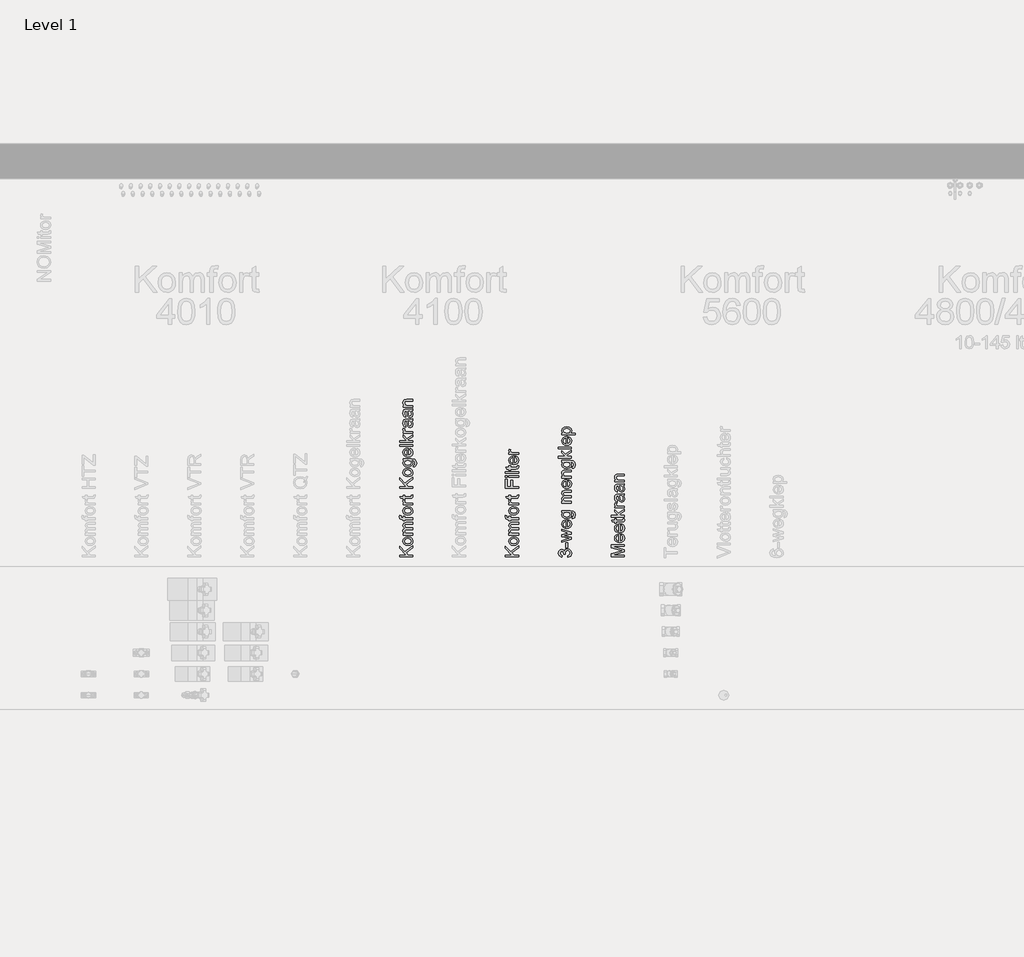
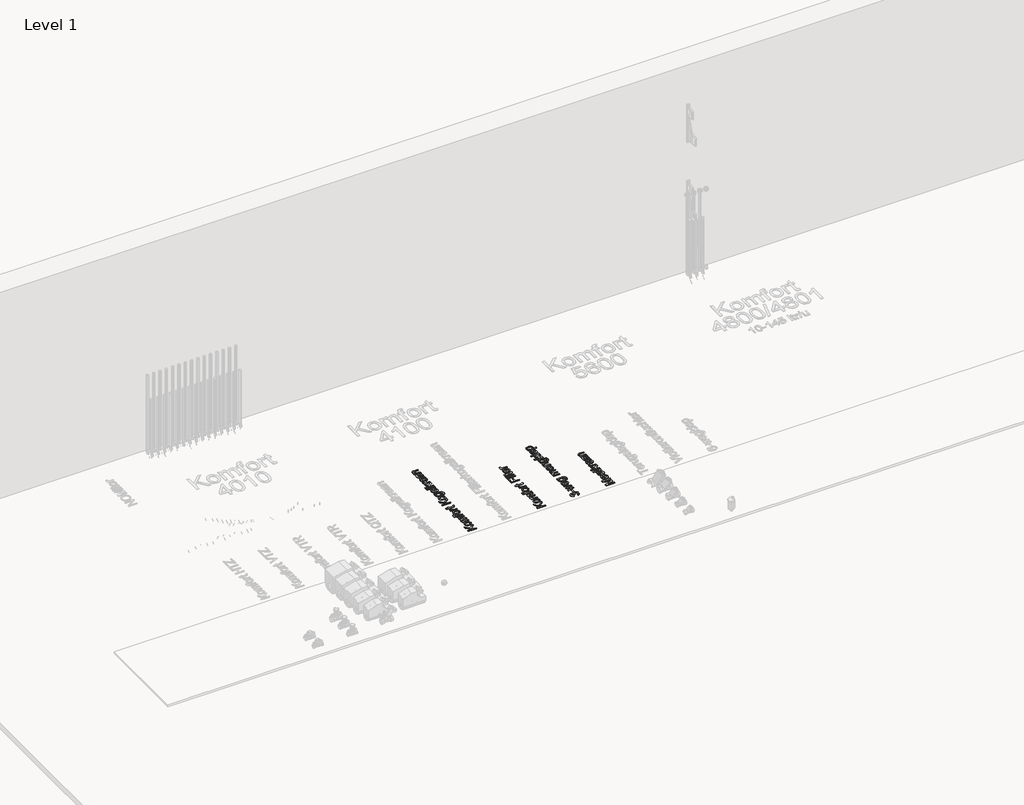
# One storey, part 19 of 34: 4 proxies.
"""IFC4 building model written with IfcOpenShell, lengths in millimetres."""

from ifc_helpers import new_model, si_unit, origin, origin_with_axes, place, context, project, spatial, polyline, outline, extrude, element, save

model = new_model("IFC4")

# Units and contexts
model_context = context("Model", 3, world=origin())
ifc_project = project(units=[si_unit("LENGTHUNIT", "METRE", prefix="MILLI")], contexts=[model_context])

# Site, building, storey
site = spatial("IfcSite", under=ifc_project)
building = spatial("IfcBuilding", under=site)
storey = spatial("IfcBuildingStorey", under=building, Name="Level 1", Elevation=0.0)

# Proxies
placement = place(None, origin())
element("IfcBuildingElementProxy", 1, Name="DN", ObjectType="DN", at=placement, inside=storey, context=model_context, shape_type="SweptSolid", body=[
    extrude(outline(polyline([(-13611.4250614, 5447.818969), (-13685.2712152, 5447.818969), (-13685.2712152, 5457.0497382), (-13649.1233787, 5457.0497382), (-13685.2712152, 5494.9103151), (-13685.2712152, 5507.818969), (-13654.9106383, 5476.0341132), (-13611.4250614, 5508.9728151), (-13611.4250614, 5497.6867574), (-13648.6726575, 5469.489642), (-13636.8096768, 5457.0497382), (-13611.4250614, 5457.0497382), (-13611.4250614, 5447.818969)])), origin_with_axes(), (0.0, 0.0, 1.0), 5.0),
    extrude(outline(polyline([(-13638.540446, 5512.4343536), (-13651.6158667, 5514.4310483), (-13660.806071, 5520.4211324), (-13665.3087753, 5527.8219738), (-13666.8096768, 5536.6831517), (-13664.9820025, 5546.3804173), (-13659.4989796, 5554.1260603), (-13650.7933005, 5559.2034341), (-13639.2976575, 5560.895892), (-13622.8733787, 5557.9031036), (-13613.5795085, 5549.1861565), (-13610.2712152, 5536.6831517), (-13612.0921287, 5526.8686985), (-13617.5548691, 5519.1320699), (-13626.4430902, 5514.1087827), (-13638.540446, 5512.4343536)]), holes=[polyline([(-13638.5584748, 5521.6651228), (-13624.2525854, 5525.9379593), (-13619.5019844, 5536.6831517), (-13624.2796287, 5547.3922863), (-13638.8469364, 5551.6651228), (-13652.8283066, 5547.365243), (-13657.5789075, 5536.6831517), (-13652.8463354, 5525.9379593), (-13638.5584748, 5521.6651228)])]), origin_with_axes(), (0.0, 0.0, 1.0), 5.0),
    extrude(outline(polyline([(-13611.4250614, 5571.2805074), (-13665.6558306, 5571.2805074), (-13665.6558306, 5580.5112767), (-13656.7315518, 5580.5112767), (-13664.0422489, 5586.8574305), (-13666.8096768, 5595.8898824), (-13663.9881623, 5605.1386805), (-13656.0825133, 5610.2228151), (-13664.1278859, 5617.4253392), (-13666.8096768, 5626.520892), (-13662.3475373, 5638.5912045), (-13648.6005421, 5642.818969), (-13611.4250614, 5642.818969), (-13611.4250614, 5633.5881997), (-13644.634196, 5633.5881997), (-13652.3415277, 5632.7318295), (-13656.1365998, 5629.630868), (-13657.5789075, 5624.3574305), (-13653.8829941, 5615.2799065), (-13642.0380421, 5611.6651228), (-13611.4250614, 5611.6651228), (-13611.4250614, 5602.4343536), (-13645.6618402, 5602.4343536), (-13654.6041479, 5600.2979353), (-13657.5789075, 5593.2937286), (-13655.5957344, 5586.4607959), (-13649.790446, 5581.9175267), (-13638.774821, 5580.5112767), (-13611.4250614, 5580.5112767), (-13611.4250614, 5571.2805074)])), origin_with_axes(), (0.0, 0.0, 1.0), 5.0),
    extrude(outline(polyline([(-13611.4250614, 5658.9728151), (-13656.4250614, 5658.9728151), (-13656.4250614, 5650.895892), (-13665.6558306, 5650.895892), (-13665.6558306, 5658.9728151), (-13671.118571, 5658.9728151), (-13678.8168883, 5659.9463728), (-13684.3156864, 5664.6699305), (-13686.4250614, 5673.9728151), (-13685.415446, 5682.3922863), (-13676.7615998, 5681.0401228), (-13677.1942921, 5675.7216132), (-13675.6618402, 5669.9073103), (-13669.946696, 5668.2035843), (-13665.6558306, 5668.2035843), (-13665.6558306, 5678.5881997), (-13656.4250614, 5678.5881997), (-13656.4250614, 5668.2035843), (-13611.4250614, 5668.2035843), (-13611.4250614, 5658.9728151)])), origin_with_axes(), (0.0, 0.0, 1.0), 5.0),
    extrude(outline(polyline([(-13638.540446, 5684.3574305), (-13651.6158667, 5686.3541252), (-13660.806071, 5692.3442093), (-13665.3087753, 5699.7450507), (-13666.8096768, 5708.6062286), (-13664.9820025, 5718.3034942), (-13659.4989796, 5726.0491372), (-13650.7933005, 5731.126511), (-13639.2976575, 5732.818969), (-13622.8733787, 5729.8261805), (-13613.5795085, 5721.1092334), (-13610.2712152, 5708.6062286), (-13612.0921287, 5698.7917755), (-13617.5548691, 5691.0551468), (-13626.4430902, 5686.0318596), (-13638.540446, 5684.3574305)]), holes=[polyline([(-13638.5584748, 5693.5881997), (-13624.2525854, 5697.8610363), (-13619.5019844, 5708.6062286), (-13624.2796287, 5719.3153632), (-13638.8469364, 5723.5881997), (-13652.8283066, 5719.2883199), (-13657.5789075, 5708.6062286), (-13652.8463354, 5697.8610363), (-13638.5584748, 5693.5881997)])]), origin_with_axes(), (0.0, 0.0, 1.0), 5.0),
    extrude(outline(polyline([(-13611.4250614, 5743.2035843), (-13665.6558306, 5743.2035843), (-13665.6558306, 5751.2805074), (-13657.6329941, 5751.2805074), (-13665.024821, 5757.0136805), (-13666.8096768, 5762.7829113), (-13663.9611191, 5772.0497382), (-13655.6858787, 5768.9668055), (-13657.5789075, 5762.4764209), (-13655.7579941, 5757.2570699), (-13650.7099171, 5753.9307478), (-13639.9286671, 5752.4343536), (-13611.4250614, 5752.4343536), (-13611.4250614, 5743.2035843)])), origin_with_axes(), (0.0, 0.0, 1.0), 5.0),
    extrude(outline(polyline([(-13619.1233787, 5797.4343536), (-13611.1546287, 5798.5881997), (-13610.2712152, 5791.6831517), (-13611.8036671, 5783.9487767), (-13615.8240998, 5780.0906036), (-13626.2988594, 5778.9728151), (-13656.4250614, 5778.9728151), (-13656.4250614, 5772.0497382), (-13665.6558306, 5772.0497382), (-13665.6558306, 5778.9728151), (-13678.8349171, 5778.9728151), (-13684.2615998, 5788.2035843), (-13665.6558306, 5788.2035843), (-13665.6558306, 5797.4343536), (-13656.4250614, 5797.4343536), (-13656.4250614, 5788.2035843), (-13626.5692921, 5788.2035843), (-13621.8096768, 5788.6903632), (-13620.1239796, 5790.2678872), (-13619.5019844, 5793.4139209), (-13619.1233787, 5797.4343536)])), origin_with_axes(), (0.0, 0.0, 1.0), 5.0),
    extrude(outline(polyline([(-13611.4250614, 5836.6651228), (-13685.2712152, 5836.6651228), (-13685.2712152, 5845.895892), (-13649.1233787, 5845.895892), (-13685.2712152, 5883.756469), (-13685.2712152, 5896.6651228), (-13654.9106383, 5864.880267), (-13611.4250614, 5897.818969), (-13611.4250614, 5886.5329113), (-13648.6726575, 5858.3357959), (-13636.8096768, 5845.895892), (-13611.4250614, 5845.895892), (-13611.4250614, 5836.6651228)])), origin_with_axes(), (0.0, 0.0, 1.0), 5.0),
    extrude(outline(polyline([(-13638.540446, 5901.2805074), (-13651.6158667, 5903.2772021), (-13660.806071, 5909.2672863), (-13665.3087753, 5916.6681276), (-13666.8096768, 5925.5293055), (-13664.9820025, 5935.2265711), (-13659.4989796, 5942.9722142), (-13650.7933005, 5948.049588), (-13639.2976575, 5949.7420459), (-13622.8733787, 5946.7492574), (-13613.5795085, 5938.0323103), (-13610.2712152, 5925.5293055), (-13612.0921287, 5915.7148524), (-13617.5548691, 5907.9782238), (-13626.4430902, 5902.9549365), (-13638.540446, 5901.2805074)]), holes=[polyline([(-13638.5584748, 5910.5112767), (-13624.2525854, 5914.7841132), (-13619.5019844, 5925.5293055), (-13624.2796287, 5936.2384401), (-13638.8469364, 5940.5112767), (-13652.8283066, 5936.2113968), (-13657.5789075, 5925.5293055), (-13652.8463354, 5914.7841132), (-13638.5584748, 5910.5112767)])]), origin_with_axes(), (0.0, 0.0, 1.0), 5.0),
    extrude(outline(polyline([(-13606.8096768, 5957.818969), (-13605.6558306, 5967.0497382), (-13600.7880421, 5970.0425267), (-13598.7327537, 5979.0028632), (-13601.0584748, 5988.4499786), (-13607.5849171, 5992.9571901), (-13618.3481383, 5993.5881997), (-13613.1558306, 5987.0888007), (-13611.4250614, 5979.1651228), (-13613.4397849, 5969.6481456), (-13619.4839556, 5962.5515411), (-13628.3451335, 5958.1367274), (-13638.8108787, 5956.6651228), (-13653.1167681, 5959.3063488), (-13663.2399652, 5966.9505795), (-13666.8096768, 5978.7144017), (-13664.790446, 5986.9490771), (-13658.7327537, 5993.5881997), (-13665.6558306, 5993.5881997), (-13665.6558306, 6002.818969), (-13618.8349171, 6002.818969), (-13600.9052296, 6000.2949305), (-13592.5668883, 5992.2991372), (-13589.5019844, 5978.8225747), (-13593.8198931, 5963.4710122), (-13599.2262933, 5959.1328211), (-13606.8096768, 5957.818969)]), holes=[polyline([(-13639.4418883, 5965.895892), (-13625.1540277, 5969.8351949), (-13620.6558306, 5979.724017), (-13625.1269844, 5989.5948103), (-13639.1714556, 5993.5881997), (-13652.9364796, 5989.4776228), (-13657.5789075, 5979.5797863), (-13653.008595, 5969.8892815), (-13639.4418883, 5965.895892)])]), origin_with_axes(), (0.0, 0.0, 1.0), 5.0),
    extrude(outline(polyline([(-13627.5789075, 6054.6338728), (-13626.4250614, 6063.6843536), (-13614.5079941, 6055.2198103), (-13610.2712152, 6039.4535843), (-13612.0988895, 6028.622755), (-13617.5819123, 6020.2889209), (-13626.364214, 6014.9749185), (-13638.0897248, 6013.2035843), (-13650.2096167, 6014.9929473), (-13659.2736191, 6020.3610363), (-13664.9256623, 6028.5821901), (-13666.8096768, 6038.9307478), (-13664.9301695, 6048.9570399), (-13659.2916479, 6056.9686084), (-13650.2456743, 6062.2217634), (-13638.1438114, 6063.9728151), (-13635.6558306, 6063.9187286), (-13635.6558306, 6022.4343536), (-13623.6666479, 6027.7438488), (-13619.5019844, 6039.6338728), (-13621.431071, 6048.6843536), (-13627.5789075, 6054.6338728)]), holes=[polyline([(-13644.8865998, 6022.4343536), (-13644.8865998, 6054.7420459), (-13653.2519844, 6051.0461324), (-13657.5789075, 6038.8946901), (-13654.1263835, 6027.5275026), (-13644.8865998, 6022.4343536)])]), origin_with_axes(), (0.0, 0.0, 1.0), 5.0),
    extrude(outline(polyline([(-13611.4250614, 6073.2035843), (-13685.2712152, 6073.2035843), (-13685.2712152, 6082.4343536), (-13611.4250614, 6082.4343536), (-13611.4250614, 6073.2035843)])), origin_with_axes(), (0.0, 0.0, 1.0), 5.0),
    extrude(outline(polyline([(-13611.4250614, 6096.2805074), (-13685.2712152, 6096.2805074), (-13685.2712152, 6105.5112767), (-13645.5897248, 6105.5112767), (-13665.6558306, 6126.208392), (-13665.6558306, 6138.9728151), (-13645.337321, 6118.0232959), (-13611.4250614, 6140.1266613), (-13611.4250614, 6129.3454113), (-13638.9190518, 6111.4067093), (-13633.2039075, 6105.5112767), (-13611.4250614, 6105.5112767), (-13611.4250614, 6096.2805074)])), origin_with_axes(), (0.0, 0.0, 1.0), 5.0),
    extrude(outline(polyline([(-13611.4250614, 6148.2035843), (-13665.6558306, 6148.2035843), (-13665.6558306, 6156.2805074), (-13657.6329941, 6156.2805074), (-13665.024821, 6162.0136805), (-13666.8096768, 6167.7829113), (-13663.9611191, 6177.0497382), (-13655.6858787, 6173.9668055), (-13657.5789075, 6167.4764209), (-13655.7579941, 6162.2570699), (-13650.7099171, 6158.9307478), (-13639.9286671, 6157.4343536), (-13611.4250614, 6157.4343536), (-13611.4250614, 6148.2035843)])), origin_with_axes(), (0.0, 0.0, 1.0), 5.0),
    extrude(outline(polyline([(-13618.3481383, 6217.4343536), (-13612.0921287, 6208.4830315), (-13610.2712152, 6198.5942093), (-13614.6522248, 6185.1897622), (-13625.8481383, 6180.5112767), (-13633.149821, 6182.2781036), (-13638.4503018, 6186.9205315), (-13641.4791479, 6193.3838728), (-13642.8673691, 6201.3706517), (-13646.040446, 6217.380267), (-13648.0957344, 6217.4343536), (-13654.9106383, 6214.8922863), (-13657.5789075, 6204.6879593), (-13655.8030662, 6195.349017), (-13649.5019844, 6190.895892), (-13650.6558306, 6181.6651228), (-13659.6702537, 6185.6585122), (-13664.9527056, 6193.6993776), (-13666.8096768, 6205.8778632), (-13665.1690518, 6217.0647622), (-13661.0494604, 6223.3838728), (-13654.7844364, 6226.2144017), (-13646.7075133, 6226.6651228), (-13635.2231383, 6226.6651228), (-13619.1864796, 6227.1338728), (-13611.4250614, 6228.9728151), (-13611.4250614, 6219.7420459), (-13618.3481383, 6217.4343536)]), holes=[polyline([(-13636.8096768, 6217.4343536), (-13633.9791479, 6202.5425267), (-13632.4827537, 6194.6008199), (-13630.0488594, 6191.0040651), (-13626.4971768, 6189.7420459), (-13621.5031864, 6192.4914449), (-13619.5019844, 6200.5593536), (-13621.7105181, 6209.8982959), (-13627.056071, 6215.9199305), (-13634.1954941, 6217.380267), (-13636.8096768, 6217.4343536)])]), origin_with_axes(), (0.0, 0.0, 1.0), 5.0),
    extrude(outline(polyline([(-13618.3481383, 6273.9728151), (-13612.0921287, 6265.021493), (-13610.2712152, 6255.1326709), (-13614.6522248, 6241.7282238), (-13625.8481383, 6237.0497382), (-13633.149821, 6238.8165651), (-13638.4503018, 6243.458993), (-13641.4791479, 6249.9223343), (-13642.8673691, 6257.9091132), (-13646.040446, 6273.9187286), (-13648.0957344, 6273.9728151), (-13654.9106383, 6271.4307478), (-13657.5789075, 6261.2264209), (-13655.8030662, 6251.8874786), (-13649.5019844, 6247.4343536), (-13650.6558306, 6238.2035843), (-13659.6702537, 6242.1969738), (-13664.9527056, 6250.2378392), (-13666.8096768, 6262.4163247), (-13665.1690518, 6273.6032238), (-13661.0494604, 6279.9223343), (-13654.7844364, 6282.7528632), (-13646.7075133, 6283.2035843), (-13635.2231383, 6283.2035843), (-13619.1864796, 6283.6723343), (-13611.4250614, 6285.5112767), (-13611.4250614, 6276.2805074), (-13618.3481383, 6273.9728151)]), holes=[polyline([(-13636.8096768, 6273.9728151), (-13633.9791479, 6259.0809882), (-13632.4827537, 6251.1392815), (-13630.0488594, 6247.5425267), (-13626.4971768, 6246.2805074), (-13621.5031864, 6249.0299065), (-13619.5019844, 6257.0978151), (-13621.7105181, 6266.4367574), (-13627.056071, 6272.458392), (-13634.1954941, 6273.9187286), (-13636.8096768, 6273.9728151)])]), origin_with_axes(), (0.0, 0.0, 1.0), 5.0),
    extrude(outline(polyline([(-13611.4250614, 6295.895892), (-13665.6558306, 6295.895892), (-13665.6558306, 6305.1266613), (-13658.0837152, 6305.1266613), (-13664.6281864, 6312.1849545), (-13666.8096768, 6321.8213728), (-13665.0518643, 6330.5383199), (-13660.4364796, 6336.4878392), (-13653.6486191, 6339.255267), (-13644.7243402, 6339.7420459), (-13611.4250614, 6339.7420459), (-13611.4250614, 6330.5112767), (-13643.4803498, 6330.5112767), (-13651.6474171, 6329.4475747), (-13655.9653258, 6325.6885603), (-13657.5789075, 6319.3514209), (-13653.9551094, 6309.3363968), (-13640.1990998, 6305.1266613), (-13611.4250614, 6305.1266613), (-13611.4250614, 6295.895892)])), origin_with_axes(), (0.0, 0.0, 1.0), 5.0),
])
element("IfcBuildingElementProxy", 2, Name="DN", ObjectType="DN", at=placement, inside=storey, context=model_context, shape_type="SweptSolid", body=[
    extrude(outline(polyline([(-13011.4250614, 5447.818969), (-13085.2712152, 5447.818969), (-13085.2712152, 5457.0497382), (-13049.1233787, 5457.0497382), (-13085.2712152, 5494.9103151), (-13085.2712152, 5507.818969), (-13054.9106383, 5476.0341132), (-13011.4250614, 5508.9728151), (-13011.4250614, 5497.6867574), (-13048.6726575, 5469.489642), (-13036.8096768, 5457.0497382), (-13011.4250614, 5457.0497382), (-13011.4250614, 5447.818969)])), origin_with_axes(), (0.0, 0.0, 1.0), 5.0),
    extrude(outline(polyline([(-13038.540446, 5512.4343536), (-13051.6158667, 5514.4310483), (-13060.806071, 5520.4211324), (-13065.3087753, 5527.8219738), (-13066.8096768, 5536.6831517), (-13064.9820025, 5546.3804173), (-13059.4989796, 5554.1260603), (-13050.7933005, 5559.2034341), (-13039.2976575, 5560.895892), (-13022.8733787, 5557.9031036), (-13013.5795085, 5549.1861565), (-13010.2712152, 5536.6831517), (-13012.0921287, 5526.8686985), (-13017.5548691, 5519.1320699), (-13026.4430902, 5514.1087827), (-13038.540446, 5512.4343536)]), holes=[polyline([(-13038.5584748, 5521.6651228), (-13024.2525854, 5525.9379593), (-13019.5019844, 5536.6831517), (-13024.2796287, 5547.3922863), (-13038.8469364, 5551.6651228), (-13052.8283066, 5547.365243), (-13057.5789075, 5536.6831517), (-13052.8463354, 5525.9379593), (-13038.5584748, 5521.6651228)])]), origin_with_axes(), (0.0, 0.0, 1.0), 5.0),
    extrude(outline(polyline([(-13011.4250614, 5571.2805074), (-13065.6558306, 5571.2805074), (-13065.6558306, 5580.5112767), (-13056.7315518, 5580.5112767), (-13064.0422489, 5586.8574305), (-13066.8096768, 5595.8898824), (-13063.9881623, 5605.1386805), (-13056.0825133, 5610.2228151), (-13064.1278859, 5617.4253392), (-13066.8096768, 5626.520892), (-13062.3475373, 5638.5912045), (-13048.6005421, 5642.818969), (-13011.4250614, 5642.818969), (-13011.4250614, 5633.5881997), (-13044.634196, 5633.5881997), (-13052.3415277, 5632.7318295), (-13056.1365998, 5629.630868), (-13057.5789075, 5624.3574305), (-13053.8829941, 5615.2799065), (-13042.0380421, 5611.6651228), (-13011.4250614, 5611.6651228), (-13011.4250614, 5602.4343536), (-13045.6618402, 5602.4343536), (-13054.6041479, 5600.2979353), (-13057.5789075, 5593.2937286), (-13055.5957344, 5586.4607959), (-13049.790446, 5581.9175267), (-13038.774821, 5580.5112767), (-13011.4250614, 5580.5112767), (-13011.4250614, 5571.2805074)])), origin_with_axes(), (0.0, 0.0, 1.0), 5.0),
    extrude(outline(polyline([(-13011.4250614, 5658.9728151), (-13056.4250614, 5658.9728151), (-13056.4250614, 5650.895892), (-13065.6558306, 5650.895892), (-13065.6558306, 5658.9728151), (-13071.118571, 5658.9728151), (-13078.8168883, 5659.9463728), (-13084.3156864, 5664.6699305), (-13086.4250614, 5673.9728151), (-13085.415446, 5682.3922863), (-13076.7615998, 5681.0401228), (-13077.1942921, 5675.7216132), (-13075.6618402, 5669.9073103), (-13069.946696, 5668.2035843), (-13065.6558306, 5668.2035843), (-13065.6558306, 5678.5881997), (-13056.4250614, 5678.5881997), (-13056.4250614, 5668.2035843), (-13011.4250614, 5668.2035843), (-13011.4250614, 5658.9728151)])), origin_with_axes(), (0.0, 0.0, 1.0), 5.0),
    extrude(outline(polyline([(-13038.540446, 5684.3574305), (-13051.6158667, 5686.3541252), (-13060.806071, 5692.3442093), (-13065.3087753, 5699.7450507), (-13066.8096768, 5708.6062286), (-13064.9820025, 5718.3034942), (-13059.4989796, 5726.0491372), (-13050.7933005, 5731.126511), (-13039.2976575, 5732.818969), (-13022.8733787, 5729.8261805), (-13013.5795085, 5721.1092334), (-13010.2712152, 5708.6062286), (-13012.0921287, 5698.7917755), (-13017.5548691, 5691.0551468), (-13026.4430902, 5686.0318596), (-13038.540446, 5684.3574305)]), holes=[polyline([(-13038.5584748, 5693.5881997), (-13024.2525854, 5697.8610363), (-13019.5019844, 5708.6062286), (-13024.2796287, 5719.3153632), (-13038.8469364, 5723.5881997), (-13052.8283066, 5719.2883199), (-13057.5789075, 5708.6062286), (-13052.8463354, 5697.8610363), (-13038.5584748, 5693.5881997)])]), origin_with_axes(), (0.0, 0.0, 1.0), 5.0),
    extrude(outline(polyline([(-13011.4250614, 5743.2035843), (-13065.6558306, 5743.2035843), (-13065.6558306, 5751.2805074), (-13057.6329941, 5751.2805074), (-13065.024821, 5757.0136805), (-13066.8096768, 5762.7829113), (-13063.9611191, 5772.0497382), (-13055.6858787, 5768.9668055), (-13057.5789075, 5762.4764209), (-13055.7579941, 5757.2570699), (-13050.7099171, 5753.9307478), (-13039.9286671, 5752.4343536), (-13011.4250614, 5752.4343536), (-13011.4250614, 5743.2035843)])), origin_with_axes(), (0.0, 0.0, 1.0), 5.0),
    extrude(outline(polyline([(-13019.1233787, 5797.4343536), (-13011.1546287, 5798.5881997), (-13010.2712152, 5791.6831517), (-13011.8036671, 5783.9487767), (-13015.8240998, 5780.0906036), (-13026.2988594, 5778.9728151), (-13056.4250614, 5778.9728151), (-13056.4250614, 5772.0497382), (-13065.6558306, 5772.0497382), (-13065.6558306, 5778.9728151), (-13078.8349171, 5778.9728151), (-13084.2615998, 5788.2035843), (-13065.6558306, 5788.2035843), (-13065.6558306, 5797.4343536), (-13056.4250614, 5797.4343536), (-13056.4250614, 5788.2035843), (-13026.5692921, 5788.2035843), (-13021.8096768, 5788.6903632), (-13020.1239796, 5790.2678872), (-13019.5019844, 5793.4139209), (-13019.1233787, 5797.4343536)])), origin_with_axes(), (0.0, 0.0, 1.0), 5.0),
    extrude(outline(polyline([(-13011.4250614, 5836.6651228), (-13085.2712152, 5836.6651228), (-13085.2712152, 5886.2805074), (-13076.040446, 5886.2805074), (-13076.040446, 5845.895892), (-13054.1173691, 5845.895892), (-13054.1173691, 5880.5112767), (-13044.8865998, 5880.5112767), (-13044.8865998, 5845.895892), (-13011.4250614, 5845.895892), (-13011.4250614, 5836.6651228)])), origin_with_axes(), (0.0, 0.0, 1.0), 5.0),
    extrude(outline(polyline([(-13011.4250614, 5897.818969), (-13065.6558306, 5897.818969), (-13065.6558306, 5907.0497382), (-13011.4250614, 5907.0497382), (-13011.4250614, 5897.818969)])), origin_with_axes(), (0.0, 0.0, 1.0), 5.0),
    extrude(outline(polyline([(-13076.040446, 5897.818969), (-13085.2712152, 5897.818969), (-13085.2712152, 5907.0497382), (-13076.040446, 5907.0497382), (-13076.040446, 5897.818969)])), origin_with_axes(), (0.0, 0.0, 1.0), 5.0),
    extrude(outline(polyline([(-13011.4250614, 5920.895892), (-13085.2712152, 5920.895892), (-13085.2712152, 5930.1266613), (-13011.4250614, 5930.1266613), (-13011.4250614, 5920.895892)])), origin_with_axes(), (0.0, 0.0, 1.0), 5.0),
    extrude(outline(polyline([(-13019.1233787, 5963.5881997), (-13011.1546287, 5964.7420459), (-13010.2712152, 5957.8369978), (-13011.8036671, 5950.1026228), (-13015.8240998, 5946.2444497), (-13026.2988594, 5945.1266613), (-13056.4250614, 5945.1266613), (-13056.4250614, 5938.2035843), (-13065.6558306, 5938.2035843), (-13065.6558306, 5945.1266613), (-13078.8349171, 5945.1266613), (-13084.2615998, 5954.3574305), (-13065.6558306, 5954.3574305), (-13065.6558306, 5963.5881997), (-13056.4250614, 5963.5881997), (-13056.4250614, 5954.3574305), (-13026.5692921, 5954.3574305), (-13021.8096768, 5954.8442093), (-13020.1239796, 5956.4217334), (-13019.5019844, 5959.567767), (-13019.1233787, 5963.5881997)])), origin_with_axes(), (0.0, 0.0, 1.0), 5.0),
    extrude(outline(polyline([(-13027.5789075, 6010.787719), (-13026.4250614, 6019.8381997), (-13014.5079941, 6011.3736565), (-13010.2712152, 5995.6074305), (-13012.0988895, 5984.7766012), (-13017.5819123, 5976.442767), (-13026.364214, 5971.1287646), (-13038.0897248, 5969.3574305), (-13050.2096167, 5971.1467935), (-13059.2736191, 5976.5148824), (-13064.9256623, 5984.7360363), (-13066.8096768, 5995.084594), (-13064.9301695, 6005.110886), (-13059.2916479, 6013.1224545), (-13050.2456743, 6018.3756096), (-13038.1438114, 6020.1266613), (-13035.6558306, 6020.0725747), (-13035.6558306, 5978.5881997), (-13023.6666479, 5983.8976949), (-13019.5019844, 5995.787719), (-13021.431071, 6004.8381997), (-13027.5789075, 6010.787719)]), holes=[polyline([(-13044.8865998, 5978.5881997), (-13044.8865998, 6010.895892), (-13053.2519844, 6007.1999786), (-13057.5789075, 5995.0485363), (-13054.1263835, 5983.6813488), (-13044.8865998, 5978.5881997)])]), origin_with_axes(), (0.0, 0.0, 1.0), 5.0),
    extrude(outline(polyline([(-13011.4250614, 6029.3574305), (-13065.6558306, 6029.3574305), (-13065.6558306, 6037.4343536), (-13057.6329941, 6037.4343536), (-13065.024821, 6043.1675267), (-13066.8096768, 6048.9367574), (-13063.9611191, 6058.2035843), (-13055.6858787, 6055.1206517), (-13057.5789075, 6048.630267), (-13055.7579941, 6043.4109161), (-13050.7099171, 6040.084594), (-13039.9286671, 6038.5881997), (-13011.4250614, 6038.5881997), (-13011.4250614, 6029.3574305)])), origin_with_axes(), (0.0, 0.0, 1.0), 5.0),
])
element("IfcBuildingElementProxy", 3, Name="DN", ObjectType="DN", at=placement, inside=storey, context=model_context, shape_type="SweptSolid", body=[
    extrude(outline(polyline([(-12731.040446, 5444.3574305), (-12732.1942921, 5453.5881997), (-12722.4767441, 5458.6813488), (-12719.5019844, 5468.209594), (-12723.5945325, 5479.4235363), (-12733.7267441, 5483.5881997), (-12743.2730181, 5479.459594), (-12747.0500614, 5468.9668055), (-12746.040446, 5462.4944497), (-12755.2712152, 5463.522094), (-12757.8132825, 5475.475219), (-12765.962321, 5480.1266613), (-12773.1828739, 5476.755267), (-12776.040446, 5468.0653632), (-12773.1558306, 5459.2672863), (-12764.5019844, 5454.7420459), (-12765.6558306, 5445.5112767), (-12780.1329941, 5453.0653632), (-12785.2712152, 5467.740844), (-12782.7381623, 5478.8736565), (-12775.8150854, 5486.662118), (-12766.5031864, 5489.3574305), (-12757.993571, 5486.7973343), (-12751.8817921, 5479.225219), (-12745.571696, 5489.2853151), (-12733.5644844, 5492.818969), (-12724.5680902, 5491.052142), (-12717.0500614, 5485.7516613), (-12711.9659268, 5477.7513608), (-12710.2712152, 5467.8850747), (-12711.7180301, 5458.9607959), (-12716.0584748, 5451.6951709), (-12722.6975974, 5446.6425868), (-12731.040446, 5444.3574305)])), origin_with_axes(), (0.0, 0.0, 1.0), 5.0),
    extrude(outline(polyline([(-12733.3481383, 5498.5881997), (-12742.5789075, 5498.5881997), (-12742.5789075, 5527.4343536), (-12733.3481383, 5527.4343536), (-12733.3481383, 5498.5881997)])), origin_with_axes(), (0.0, 0.0, 1.0), 5.0),
    extrude(outline(polyline([(-12711.4250614, 5546.8153632), (-12765.6558306, 5530.318969), (-12765.6558306, 5539.9103151), (-12734.0152056, 5549.2672863), (-12722.7111191, 5552.0617574), (-12733.6005421, 5554.3514209), (-12765.6558306, 5561.7973343), (-12765.6558306, 5572.7949305), (-12733.6906864, 5580.2047863), (-12723.8289075, 5582.2420459), (-12734.2315518, 5585.162719), (-12765.6558306, 5594.537719), (-12765.6558306, 5604.1651228), (-12711.4250614, 5587.5425267), (-12711.4250614, 5576.3826709), (-12743.227946, 5569.2973343), (-12753.1438114, 5567.2420459), (-12711.4250614, 5558.1014209), (-12711.4250614, 5546.8153632)])), origin_with_axes(), (0.0, 0.0, 1.0), 5.0),
    extrude(outline(polyline([(-12727.5789075, 5648.4800267), (-12726.4250614, 5657.5305074), (-12714.5079941, 5649.0659642), (-12710.2712152, 5633.2997382), (-12712.0988895, 5622.4689089), (-12717.5819123, 5614.1350747), (-12726.364214, 5608.8210723), (-12738.0897248, 5607.0497382), (-12750.2096167, 5608.8391012), (-12759.2736191, 5614.2071901), (-12764.9256623, 5622.428344), (-12766.8096768, 5632.7769017), (-12764.9301695, 5642.8031937), (-12759.2916479, 5650.8147622), (-12750.2456743, 5656.0679173), (-12738.1438114, 5657.818969), (-12735.6558306, 5657.7648824), (-12735.6558306, 5616.2805074), (-12723.6666479, 5621.5900026), (-12719.5019844, 5633.4800267), (-12721.431071, 5642.5305074), (-12727.5789075, 5648.4800267)]), holes=[polyline([(-12744.8865998, 5616.2805074), (-12744.8865998, 5648.5881997), (-12753.2519844, 5644.8922863), (-12757.5789075, 5632.740844), (-12754.1263835, 5621.3736565), (-12744.8865998, 5616.2805074)])]), origin_with_axes(), (0.0, 0.0, 1.0), 5.0),
    extrude(outline(polyline([(-12706.8096768, 5664.7420459), (-12705.6558306, 5673.9728151), (-12700.7880421, 5676.9656036), (-12698.7327537, 5685.9259401), (-12701.0584748, 5695.3730555), (-12707.5849171, 5699.880267), (-12718.3481383, 5700.5112767), (-12713.1558306, 5694.0118776), (-12711.4250614, 5686.0881997), (-12713.4397849, 5676.5712226), (-12719.4839556, 5669.474618), (-12728.3451335, 5665.0598043), (-12738.8108787, 5663.5881997), (-12753.1167681, 5666.2294257), (-12763.2399652, 5673.8736565), (-12766.8096768, 5685.6374786), (-12764.790446, 5693.8721541), (-12758.7327537, 5700.5112767), (-12765.6558306, 5700.5112767), (-12765.6558306, 5709.7420459), (-12718.8349171, 5709.7420459), (-12700.9052296, 5707.2180074), (-12692.5668883, 5699.2222142), (-12689.5019844, 5685.7456517), (-12693.8198931, 5670.3940892), (-12699.2262933, 5666.055898), (-12706.8096768, 5664.7420459)]), holes=[polyline([(-12739.4418883, 5672.818969), (-12725.1540277, 5676.7582718), (-12720.6558306, 5686.647094), (-12725.1269844, 5696.5178872), (-12739.1714556, 5700.5112767), (-12752.9364796, 5696.4006997), (-12757.5789075, 5686.5028632), (-12753.008595, 5676.8123584), (-12739.4418883, 5672.818969)])]), origin_with_axes(), (0.0, 0.0, 1.0), 5.0),
    extrude(outline(polyline([(-12711.4250614, 5752.4343536), (-12765.6558306, 5752.4343536), (-12765.6558306, 5761.6651228), (-12756.7315518, 5761.6651228), (-12764.0422489, 5768.0112767), (-12766.8096768, 5777.0437286), (-12763.9881623, 5786.2925267), (-12756.0825133, 5791.3766613), (-12764.1278859, 5798.5791853), (-12766.8096768, 5807.6747382), (-12762.3475373, 5819.7450507), (-12748.6005421, 5823.9728151), (-12711.4250614, 5823.9728151), (-12711.4250614, 5814.7420459), (-12744.634196, 5814.7420459), (-12752.3415277, 5813.8856757), (-12756.1365998, 5810.7847142), (-12757.5789075, 5805.5112767), (-12753.8829941, 5796.4337526), (-12742.0380421, 5792.818969), (-12711.4250614, 5792.818969), (-12711.4250614, 5783.5881997), (-12745.6618402, 5783.5881997), (-12754.6041479, 5781.4517815), (-12757.5789075, 5774.4475747), (-12755.5957344, 5767.614642), (-12749.790446, 5763.0713728), (-12738.774821, 5761.6651228), (-12711.4250614, 5761.6651228), (-12711.4250614, 5752.4343536)])), origin_with_axes(), (0.0, 0.0, 1.0), 5.0),
    extrude(outline(polyline([(-12727.5789075, 5875.787719), (-12726.4250614, 5884.8381997), (-12714.5079941, 5876.3736565), (-12710.2712152, 5860.6074305), (-12712.0988895, 5849.7766012), (-12717.5819123, 5841.442767), (-12726.364214, 5836.1287646), (-12738.0897248, 5834.3574305), (-12750.2096167, 5836.1467935), (-12759.2736191, 5841.5148824), (-12764.9256623, 5849.7360363), (-12766.8096768, 5860.084594), (-12764.9301695, 5870.110886), (-12759.2916479, 5878.1224545), (-12750.2456743, 5883.3756096), (-12738.1438114, 5885.1266613), (-12735.6558306, 5885.0725747), (-12735.6558306, 5843.5881997), (-12723.6666479, 5848.8976949), (-12719.5019844, 5860.787719), (-12721.431071, 5869.8381997), (-12727.5789075, 5875.787719)]), holes=[polyline([(-12744.8865998, 5843.5881997), (-12744.8865998, 5875.895892), (-12753.2519844, 5872.1999786), (-12757.5789075, 5860.0485363), (-12754.1263835, 5848.6813488), (-12744.8865998, 5843.5881997)])]), origin_with_axes(), (0.0, 0.0, 1.0), 5.0),
    extrude(outline(polyline([(-12711.4250614, 5894.3574305), (-12765.6558306, 5894.3574305), (-12765.6558306, 5903.5881997), (-12758.0837152, 5903.5881997), (-12764.6281864, 5910.646493), (-12766.8096768, 5920.2829113), (-12765.0518643, 5928.9998584), (-12760.4364796, 5934.9493776), (-12753.6486191, 5937.7168055), (-12744.7243402, 5938.2035843), (-12711.4250614, 5938.2035843), (-12711.4250614, 5928.9728151), (-12743.4803498, 5928.9728151), (-12751.6474171, 5927.9091132), (-12755.9653258, 5924.1500988), (-12757.5789075, 5917.8129593), (-12753.9551094, 5907.7979353), (-12740.1990998, 5903.5881997), (-12711.4250614, 5903.5881997), (-12711.4250614, 5894.3574305)])), origin_with_axes(), (0.0, 0.0, 1.0), 5.0),
    extrude(outline(polyline([(-12706.8096768, 5948.5881997), (-12705.6558306, 5957.818969), (-12700.7880421, 5960.8117574), (-12698.7327537, 5969.772094), (-12701.0584748, 5979.2192093), (-12707.5849171, 5983.7264209), (-12718.3481383, 5984.3574305), (-12713.1558306, 5977.8580315), (-12711.4250614, 5969.9343536), (-12713.4397849, 5960.4173764), (-12719.4839556, 5953.3207718), (-12728.3451335, 5948.9059581), (-12738.8108787, 5947.4343536), (-12753.1167681, 5950.0755795), (-12763.2399652, 5957.7198103), (-12766.8096768, 5969.4836324), (-12764.790446, 5977.7183079), (-12758.7327537, 5984.3574305), (-12765.6558306, 5984.3574305), (-12765.6558306, 5993.5881997), (-12718.8349171, 5993.5881997), (-12700.9052296, 5991.0641613), (-12692.5668883, 5983.068368), (-12689.5019844, 5969.5918055), (-12693.8198931, 5954.240243), (-12699.2262933, 5949.9020519), (-12706.8096768, 5948.5881997)]), holes=[polyline([(-12739.4418883, 5956.6651228), (-12725.1540277, 5960.6044257), (-12720.6558306, 5970.4932478), (-12725.1269844, 5980.3640411), (-12739.1714556, 5984.3574305), (-12752.9364796, 5980.2468536), (-12757.5789075, 5970.349017), (-12753.008595, 5960.6585122), (-12739.4418883, 5956.6651228)])]), origin_with_axes(), (0.0, 0.0, 1.0), 5.0),
    extrude(outline(polyline([(-12711.4250614, 6007.4343536), (-12785.2712152, 6007.4343536), (-12785.2712152, 6016.6651228), (-12745.5897248, 6016.6651228), (-12765.6558306, 6037.3622382), (-12765.6558306, 6050.1266613), (-12745.337321, 6029.177142), (-12711.4250614, 6051.2805074), (-12711.4250614, 6040.4992574), (-12738.9190518, 6022.5605555), (-12733.2039075, 6016.6651228), (-12711.4250614, 6016.6651228), (-12711.4250614, 6007.4343536)])), origin_with_axes(), (0.0, 0.0, 1.0), 5.0),
    extrude(outline(polyline([(-12711.4250614, 6059.3574305), (-12785.2712152, 6059.3574305), (-12785.2712152, 6068.5881997), (-12711.4250614, 6068.5881997), (-12711.4250614, 6059.3574305)])), origin_with_axes(), (0.0, 0.0, 1.0), 5.0),
    extrude(outline(polyline([(-12727.5789075, 6120.4031036), (-12726.4250614, 6129.4535843), (-12714.5079941, 6120.9890411), (-12710.2712152, 6105.2228151), (-12712.0988895, 6094.3919858), (-12717.5819123, 6086.0581517), (-12726.364214, 6080.7441493), (-12738.0897248, 6078.9728151), (-12750.2096167, 6080.7621781), (-12759.2736191, 6086.130267), (-12764.9256623, 6094.3514209), (-12766.8096768, 6104.6999786), (-12764.9301695, 6114.7262706), (-12759.2916479, 6122.7378392), (-12750.2456743, 6127.9909942), (-12738.1438114, 6129.7420459), (-12735.6558306, 6129.6879593), (-12735.6558306, 6088.2035843), (-12723.6666479, 6093.5130795), (-12719.5019844, 6105.4031036), (-12721.431071, 6114.4535843), (-12727.5789075, 6120.4031036)]), holes=[polyline([(-12744.8865998, 6088.2035843), (-12744.8865998, 6120.5112767), (-12753.2519844, 6116.8153632), (-12757.5789075, 6104.6639209), (-12754.1263835, 6093.2967334), (-12744.8865998, 6088.2035843)])]), origin_with_axes(), (0.0, 0.0, 1.0), 5.0),
    extrude(outline(polyline([(-12690.6558306, 6138.9728151), (-12765.6558306, 6138.9728151), (-12765.6558306, 6148.2035843), (-12756.6053498, 6148.2035843), (-12764.258595, 6154.5857959), (-12766.8096768, 6163.2035843), (-12763.2399652, 6174.9043055), (-12753.1798691, 6182.5485363), (-12738.9551094, 6185.1266613), (-12724.0001816, 6182.2150026), (-12713.8138835, 6173.7594738), (-12710.2712152, 6162.0857959), (-12712.6420085, 6154.0539449), (-12718.6365998, 6148.2035843), (-12690.6558306, 6148.2035843), (-12690.6558306, 6138.9728151)]), holes=[polyline([(-12738.1077537, 6148.2035843), (-12724.0452537, 6152.1969738), (-12719.5019844, 6161.8874786), (-12724.2075133, 6171.7763007), (-12738.7928498, 6175.895892), (-12752.8914075, 6171.8754593), (-12757.5789075, 6162.2660843), (-12752.5939316, 6152.4674065), (-12738.1077537, 6148.2035843)])]), origin_with_axes(), (0.0, 0.0, 1.0), 5.0),
])
element("IfcBuildingElementProxy", 4, Name="DN", ObjectType="DN", at=placement, inside=storey, context=model_context, shape_type="SweptSolid", body=[
    extrude(outline(polyline([(-12411.4250614, 5447.818969), (-12485.2712152, 5447.818969), (-12485.2712152, 5463.7023824), (-12433.2219364, 5478.8105555), (-12422.3505421, 5481.8574305), (-12434.1233787, 5485.1567093), (-12485.2712152, 5500.0124786), (-12485.2712152, 5515.895892), (-12411.4250614, 5515.895892), (-12411.4250614, 5506.6651228), (-12476.040446, 5506.6651228), (-12411.4250614, 5488.1134401), (-12411.4250614, 5475.6014209), (-12476.040446, 5457.0497382), (-12411.4250614, 5457.0497382), (-12411.4250614, 5447.818969)])), origin_with_axes(), (0.0, 0.0, 1.0), 5.0),
    extrude(outline(polyline([(-12427.5789075, 5568.864642), (-12426.4250614, 5577.9151228), (-12414.5079941, 5569.4505795), (-12410.2712152, 5553.6843536), (-12412.0988895, 5542.8535243), (-12417.5819123, 5534.5196901), (-12426.364214, 5529.2056877), (-12438.0897248, 5527.4343536), (-12450.2096167, 5529.2237166), (-12459.2736191, 5534.5918055), (-12464.9256623, 5542.8129593), (-12466.8096768, 5553.161517), (-12464.9301695, 5563.1878091), (-12459.2916479, 5571.1993776), (-12450.2456743, 5576.4525327), (-12438.1438114, 5578.2035843), (-12435.6558306, 5578.1494978), (-12435.6558306, 5536.6651228), (-12423.6666479, 5541.974618), (-12419.5019844, 5553.864642), (-12421.431071, 5562.9151228), (-12427.5789075, 5568.864642)]), holes=[polyline([(-12444.8865998, 5536.6651228), (-12444.8865998, 5568.9728151), (-12453.2519844, 5565.2769017), (-12457.5789075, 5553.1254593), (-12454.1263835, 5541.7582718), (-12444.8865998, 5536.6651228)])]), origin_with_axes(), (0.0, 0.0, 1.0), 5.0),
    extrude(outline(polyline([(-12427.5789075, 5625.4031036), (-12426.4250614, 5634.4535843), (-12414.5079941, 5625.9890411), (-12410.2712152, 5610.2228151), (-12412.0988895, 5599.3919858), (-12417.5819123, 5591.0581517), (-12426.364214, 5585.7441493), (-12438.0897248, 5583.9728151), (-12450.2096167, 5585.7621781), (-12459.2736191, 5591.130267), (-12464.9256623, 5599.3514209), (-12466.8096768, 5609.6999786), (-12464.9301695, 5619.7262706), (-12459.2916479, 5627.7378392), (-12450.2456743, 5632.9909942), (-12438.1438114, 5634.7420459), (-12435.6558306, 5634.6879593), (-12435.6558306, 5593.2035843), (-12423.6666479, 5598.5130795), (-12419.5019844, 5610.4031036), (-12421.431071, 5619.4535843), (-12427.5789075, 5625.4031036)]), holes=[polyline([(-12444.8865998, 5593.2035843), (-12444.8865998, 5625.5112767), (-12453.2519844, 5621.8153632), (-12457.5789075, 5609.6639209), (-12454.1263835, 5598.2967334), (-12444.8865998, 5593.2035843)])]), origin_with_axes(), (0.0, 0.0, 1.0), 5.0),
    extrude(outline(polyline([(-12419.1233787, 5663.5881997), (-12411.1546287, 5664.7420459), (-12410.2712152, 5657.8369978), (-12411.8036671, 5650.1026228), (-12415.8240998, 5646.2444497), (-12426.2988594, 5645.1266613), (-12456.4250614, 5645.1266613), (-12456.4250614, 5638.2035843), (-12465.6558306, 5638.2035843), (-12465.6558306, 5645.1266613), (-12478.8349171, 5645.1266613), (-12484.2615998, 5654.3574305), (-12465.6558306, 5654.3574305), (-12465.6558306, 5663.5881997), (-12456.4250614, 5663.5881997), (-12456.4250614, 5654.3574305), (-12426.5692921, 5654.3574305), (-12421.8096768, 5654.8442093), (-12420.1239796, 5656.4217334), (-12419.5019844, 5659.567767), (-12419.1233787, 5663.5881997)])), origin_with_axes(), (0.0, 0.0, 1.0), 5.0),
    extrude(outline(polyline([(-12411.4250614, 5672.818969), (-12485.2712152, 5672.818969), (-12485.2712152, 5682.0497382), (-12445.5897248, 5682.0497382), (-12465.6558306, 5702.7468536), (-12465.6558306, 5715.5112767), (-12445.337321, 5694.5617574), (-12411.4250614, 5716.6651228), (-12411.4250614, 5705.8838728), (-12438.9190518, 5687.9451709), (-12433.2039075, 5682.0497382), (-12411.4250614, 5682.0497382), (-12411.4250614, 5672.818969)])), origin_with_axes(), (0.0, 0.0, 1.0), 5.0),
    extrude(outline(polyline([(-12411.4250614, 5724.7420459), (-12465.6558306, 5724.7420459), (-12465.6558306, 5732.818969), (-12457.6329941, 5732.818969), (-12465.024821, 5738.552142), (-12466.8096768, 5744.3213728), (-12463.9611191, 5753.5881997), (-12455.6858787, 5750.505267), (-12457.5789075, 5744.0148824), (-12455.7579941, 5738.7955315), (-12450.7099171, 5735.4692093), (-12439.9286671, 5733.9728151), (-12411.4250614, 5733.9728151), (-12411.4250614, 5724.7420459)])), origin_with_axes(), (0.0, 0.0, 1.0), 5.0),
    extrude(outline(polyline([(-12418.3481383, 5793.9728151), (-12412.0921287, 5785.021493), (-12410.2712152, 5775.1326709), (-12414.6522248, 5761.7282238), (-12425.8481383, 5757.0497382), (-12433.149821, 5758.8165651), (-12438.4503018, 5763.458993), (-12441.4791479, 5769.9223343), (-12442.8673691, 5777.9091132), (-12446.040446, 5793.9187286), (-12448.0957344, 5793.9728151), (-12454.9106383, 5791.4307478), (-12457.5789075, 5781.2264209), (-12455.8030662, 5771.8874786), (-12449.5019844, 5767.4343536), (-12450.6558306, 5758.2035843), (-12459.6702537, 5762.1969738), (-12464.9527056, 5770.2378392), (-12466.8096768, 5782.4163247), (-12465.1690518, 5793.6032238), (-12461.0494604, 5799.9223343), (-12454.7844364, 5802.7528632), (-12446.7075133, 5803.2035843), (-12435.2231383, 5803.2035843), (-12419.1864796, 5803.6723343), (-12411.4250614, 5805.5112767), (-12411.4250614, 5796.2805074), (-12418.3481383, 5793.9728151)]), holes=[polyline([(-12436.8096768, 5793.9728151), (-12433.9791479, 5779.0809882), (-12432.4827537, 5771.1392815), (-12430.0488594, 5767.5425267), (-12426.4971768, 5766.2805074), (-12421.5031864, 5769.0299065), (-12419.5019844, 5777.0978151), (-12421.7105181, 5786.4367574), (-12427.056071, 5792.458392), (-12434.1954941, 5793.9187286), (-12436.8096768, 5793.9728151)])]), origin_with_axes(), (0.0, 0.0, 1.0), 5.0),
    extrude(outline(polyline([(-12418.3481383, 5850.5112767), (-12412.0921287, 5841.5599545), (-12410.2712152, 5831.6711324), (-12414.6522248, 5818.2666853), (-12425.8481383, 5813.5881997), (-12433.149821, 5815.3550267), (-12438.4503018, 5819.9974545), (-12441.4791479, 5826.4607959), (-12442.8673691, 5834.4475747), (-12446.040446, 5850.4571901), (-12448.0957344, 5850.5112767), (-12454.9106383, 5847.9692093), (-12457.5789075, 5837.7648824), (-12455.8030662, 5828.4259401), (-12449.5019844, 5823.9728151), (-12450.6558306, 5814.7420459), (-12459.6702537, 5818.7354353), (-12464.9527056, 5826.7763007), (-12466.8096768, 5838.9547863), (-12465.1690518, 5850.1416853), (-12461.0494604, 5856.4607959), (-12454.7844364, 5859.2913247), (-12446.7075133, 5859.7420459), (-12435.2231383, 5859.7420459), (-12419.1864796, 5860.2107959), (-12411.4250614, 5862.0497382), (-12411.4250614, 5852.818969), (-12418.3481383, 5850.5112767)]), holes=[polyline([(-12436.8096768, 5850.5112767), (-12433.9791479, 5835.6194497), (-12432.4827537, 5827.677743), (-12430.0488594, 5824.0809882), (-12426.4971768, 5822.818969), (-12421.5031864, 5825.568368), (-12419.5019844, 5833.6362767), (-12421.7105181, 5842.975219), (-12427.056071, 5848.9968536), (-12434.1954941, 5850.4571901), (-12436.8096768, 5850.5112767)])]), origin_with_axes(), (0.0, 0.0, 1.0), 5.0),
    extrude(outline(polyline([(-12411.4250614, 5872.4343536), (-12465.6558306, 5872.4343536), (-12465.6558306, 5881.6651228), (-12458.0837152, 5881.6651228), (-12464.6281864, 5888.7234161), (-12466.8096768, 5898.3598343), (-12465.0518643, 5907.0767815), (-12460.4364796, 5913.0263007), (-12453.6486191, 5915.7937286), (-12444.7243402, 5916.2805074), (-12411.4250614, 5916.2805074), (-12411.4250614, 5907.0497382), (-12443.4803498, 5907.0497382), (-12451.6474171, 5905.9860363), (-12455.9653258, 5902.2270218), (-12457.5789075, 5895.8898824), (-12453.9551094, 5885.8748584), (-12440.1990998, 5881.6651228), (-12411.4250614, 5881.6651228), (-12411.4250614, 5872.4343536)])), origin_with_axes(), (0.0, 0.0, 1.0), 5.0),
])

save(model, "model.ifc")
